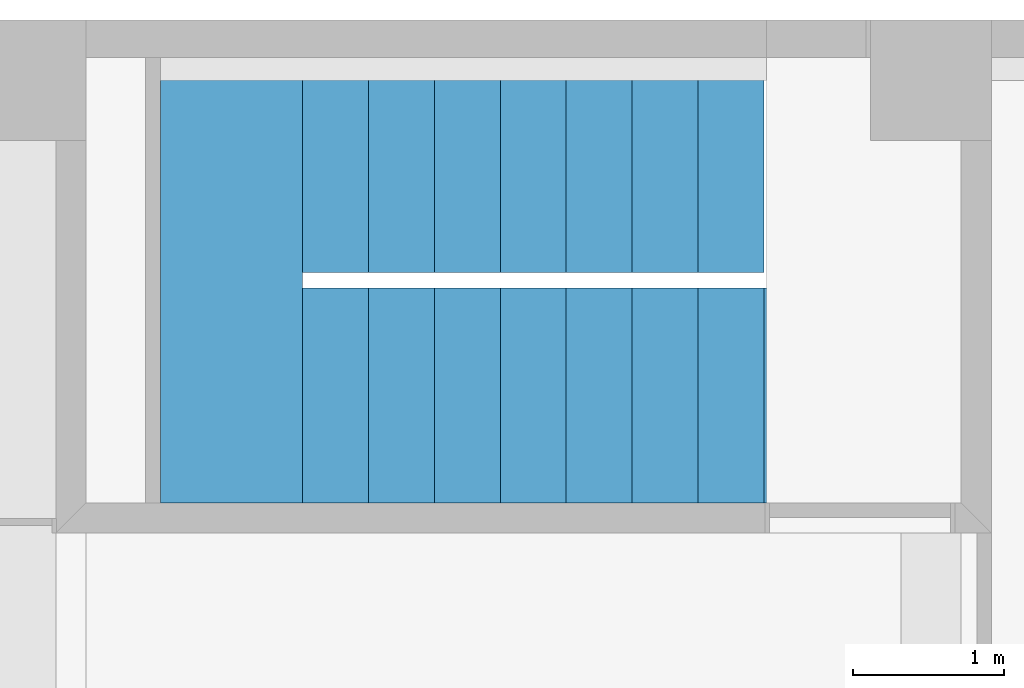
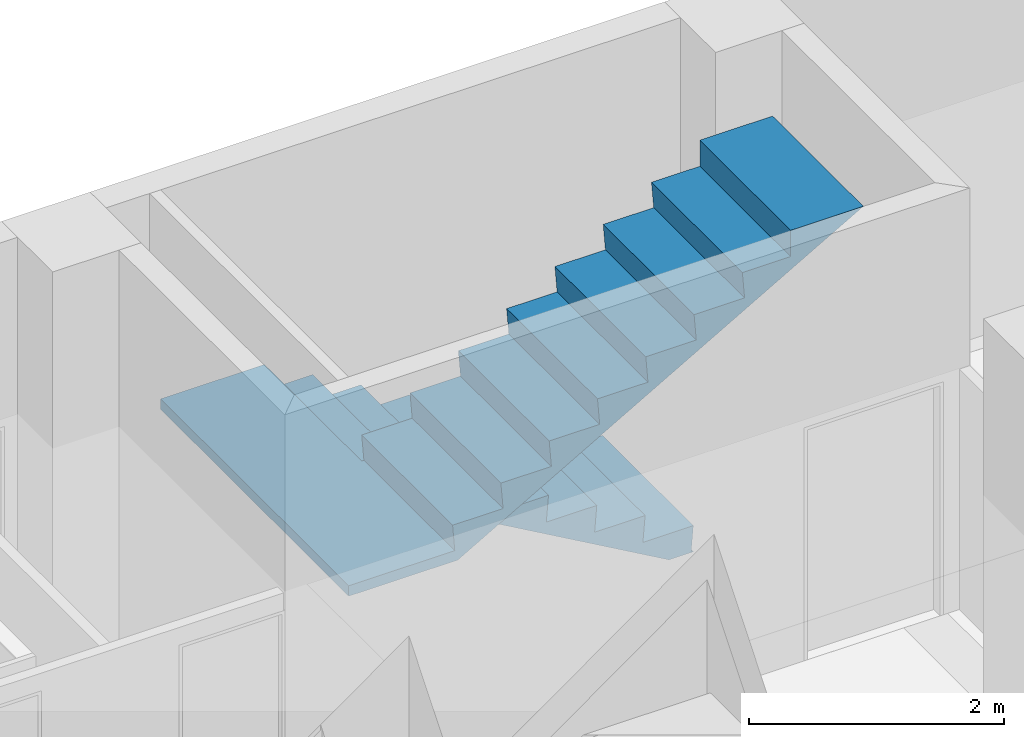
# One storey, part 6 of 14: 1 stair.
"""IFC2X3 building model written with IfcOpenShell, lengths in millimetres."""

from ifc_helpers import new_model, entity, si_unit, converted_unit, direction, frame, origin_with_axes, place, context, project, spatial, faceted_brep, material, element, save


model = new_model("IFC2X3")

# Units and contexts
model_context = context("Model", 3, precision=1e-05, world=origin_with_axes(), true_north=direction((0.0, 1.0)))
ifc_project = project(units=[si_unit("LENGTHUNIT", "METRE", prefix="MILLI"), si_unit("AREAUNIT", "SQUARE_METRE"), si_unit("VOLUMEUNIT", "CUBIC_METRE"), converted_unit("PLANEANGLEUNIT", "DEGREE", entity("IfcPlaneAngleMeasure", 0.017453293), si_unit("PLANEANGLEUNIT", "RADIAN"), dimensions=[0, 0, 0, 0, 0, 0, 0]), si_unit("SOLIDANGLEUNIT", "STERADIAN"), si_unit("MASSUNIT", "GRAM"), si_unit("TIMEUNIT", "SECOND"), si_unit("THERMODYNAMICTEMPERATUREUNIT", "DEGREE_CELSIUS"), si_unit("LUMINOUSINTENSITYUNIT", "LUMEN")], contexts=[model_context])

# Site, building, storey
site_placement = place(None, origin_with_axes())
site = spatial("IfcSite", under=ifc_project, at=site_placement, Name="\x83T\x83C\x83g", CompositionType="ELEMENT")
building_placement = place(site_placement, origin_with_axes())
building = spatial("IfcBuilding", under=site, at=building_placement, Name="Daitec-Sample 201208", CompositionType="ELEMENT")
storey_placement = place(building_placement, frame((0.0, 0.0, 4000.0), z_axis=(0.0, 0.0, 1.0), x_axis=(1.0, 0.0, 0.0)))
storey = spatial("IfcBuildingStorey", under=building, at=storey_placement, Name="2F", CompositionType="ELEMENT", Elevation=4000.0)

# Stair
ifc_material = material(Name="\x94w\x8ci")
stair_placement = place(storey_placement, frame((29393.973, 23550.0, 0.0), z_axis=(0.0, 0.0, 1.0), x_axis=(0.0, 1.0, 0.0)))
element("IfcStair", 1, at=stair_placement, inside=storey, material=ifc_material, Name="K3", ShapeType="NOTDEFINED", context=model_context, shape_type="Brep", body=[
    faceted_brep([(0.0, 0.0, 0.0), (-1425.0, 0.0, 0.0), (-1425.0, 221.43142, 0.0), (0.0, 221.43142, 0.0), (0.0, 20.0, 0.0), (-1425.0, 20.0, 0.0), (-1425.0, 0.0, 250.0), (-1425.0, 457.13996, 250.0), (-1425.0, 437.13996, 500.0), (-1425.0, 894.27993, 500.0), (-1425.0, 874.27993, 750.0), (-1425.0, 1331.4199, 750.0), (-1425.0, 1311.4199, 1000.0), (-1425.0, 1768.5599, 1000.0), (-1425.0, 1748.5599, 1250.0), (-1425.0, 2205.6998, 1250.0), (-1425.0, 2185.6998, 1500.0), (-1425.0, 2642.8398, 1500.0), (-1425.0, 2622.8398, 1750.0), (-1425.0, 3059.9798, 1750.0), (-1425.0, 3059.9798, 2000.0), (-1425.0, 3059.9798, 1900.0), (-1425.0, 3543.6951, 1900.0), (0.0, 3543.6951, 1900.0), (0.0, 3059.9798, 1900.0), (0.0, 3059.9798, 2000.0), (0.0, 3059.9798, 1750.0), (0.0, 2622.8398, 1750.0), (0.0, 2642.8398, 1500.0), (0.0, 2185.6998, 1500.0), (0.0, 2205.6998, 1250.0), (0.0, 1748.5599, 1250.0), (0.0, 1768.5599, 1000.0), (0.0, 1311.4199, 1000.0), (0.0, 1331.4199, 750.0), (0.0, 874.27993, 750.0), (0.0, 894.27993, 500.0), (0.0, 437.13996, 500.0), (0.0, 457.13996, 250.0), (0.0, 0.0, 250.0)], [[[0, 1, 2, 3]], [[4, 5, 1, 0]], [[1, 5, 6, 7, 8, 9, 10, 11, 12, 13, 14, 15, 16, 17, 18, 19, 20, 21, 22, 2]], [[3, 2, 22, 23]], [[0, 3, 23, 24, 25, 26, 27, 28, 29, 30, 31, 32, 33, 34, 35, 36, 37, 38, 39, 4]], [[39, 6, 5, 4]], [[38, 7, 6, 39]], [[37, 8, 7, 38]], [[36, 9, 8, 37]], [[35, 10, 9, 36]], [[34, 11, 10, 35]], [[33, 12, 11, 34]], [[32, 13, 12, 33]], [[31, 14, 13, 32]], [[30, 15, 14, 31]], [[29, 16, 15, 30]], [[28, 17, 16, 29]], [[27, 18, 17, 28]], [[26, 19, 18, 27]], [[25, 20, 19, 26]], [[24, 21, 20, 25]], [[23, 22, 21, 24]]]),
    faceted_brep([(-2950.0, 3059.9798, 1900.0), (-1525.0, 3059.9798, 1900.0), (-1525.0, 3013.4043, 1900.0), (-2950.0, 3013.4043, 1900.0), (-2950.0, 3059.9798, 2000.0), (-1525.0, 3059.9798, 2000.0), (-1525.0, 3039.9798, 2000.0), (-1525.0, 3059.9798, 2250.0), (-1525.0, 2602.8398, 2250.0), (-1525.0, 2622.8398, 2500.0), (-1525.0, 2165.6998, 2500.0), (-1525.0, 2185.6998, 2750.0), (-1525.0, 1728.5599, 2750.0), (-1525.0, 1748.5599, 3000.0), (-1525.0, 1291.4199, 3000.0), (-1525.0, 1311.4199, 3250.0), (-1525.0, 854.27993, 3250.0), (-1525.0, 874.27993, 3500.0), (-1525.0, 417.13996, 3500.0), (-1525.0, 437.13996, 3750.0), (-1525.0, 0.0, 3750.0), (-1525.0, 0.0, 4000.0), (-1525.0, -658.57138, 4000.0), (-2950.0, -658.57138, 4000.0), (-2950.0, 0.0, 4000.0), (-2950.0, 0.0, 3750.0), (-2950.0, 437.13996, 3750.0), (-2950.0, 417.13996, 3500.0), (-2950.0, 874.27993, 3500.0), (-2950.0, 854.27993, 3250.0), (-2950.0, 1311.4199, 3250.0), (-2950.0, 1291.4199, 3000.0), (-2950.0, 1748.5599, 3000.0), (-2950.0, 1728.5599, 2750.0), (-2950.0, 2185.6998, 2750.0), (-2950.0, 2165.6998, 2500.0), (-2950.0, 2622.8398, 2500.0), (-2950.0, 2602.8398, 2250.0), (-2950.0, 3059.9798, 2250.0), (-2950.0, 3039.9798, 2000.0)], [[[0, 1, 2, 3]], [[4, 5, 1, 0]], [[1, 5, 6, 7, 8, 9, 10, 11, 12, 13, 14, 15, 16, 17, 18, 19, 20, 21, 22, 2]], [[3, 2, 22, 23]], [[0, 3, 23, 24, 25, 26, 27, 28, 29, 30, 31, 32, 33, 34, 35, 36, 37, 38, 39, 4]], [[39, 6, 5, 4]], [[38, 7, 6, 39]], [[37, 8, 7, 38]], [[36, 9, 8, 37]], [[35, 10, 9, 36]], [[34, 11, 10, 35]], [[33, 12, 11, 34]], [[32, 13, 12, 33]], [[31, 14, 13, 32]], [[30, 15, 14, 31]], [[29, 16, 15, 30]], [[28, 17, 16, 29]], [[27, 18, 17, 28]], [[26, 19, 18, 27]], [[25, 20, 19, 26]], [[24, 21, 20, 25]], [[23, 22, 21, 24]]]),
    faceted_brep([(0.0, 3059.9798, 1900.0), (0.0, 3059.9798, 2000.0), (-1425.0, 3059.9798, 2000.0), (-1425.0, 3059.9798, 1900.0), (0.0, 3543.6951, 1900.0), (0.0, 3543.6951, 2000.0), (0.0, 4000.0, 2000.0), (-2950.0, 4000.0, 2000.0), (-2950.0, 3059.9798, 2000.0), (-1525.0, 3059.9798, 2000.0), (-1525.0, 3059.9798, 1900.0), (-2950.0, 3059.9798, 1900.0), (-2950.0, 4000.0, 1900.0), (0.0, 4000.0, 1900.0)], [[[0, 1, 2, 3]], [[4, 5, 1, 0]], [[1, 5, 6, 7, 8, 9, 2]], [[3, 2, 9, 10]], [[0, 3, 10, 11, 12, 13, 4]], [[13, 6, 5, 4]], [[12, 7, 6, 13]], [[11, 8, 7, 12]], [[10, 9, 8, 11]]]),
])

save(model, "model.ifc")
